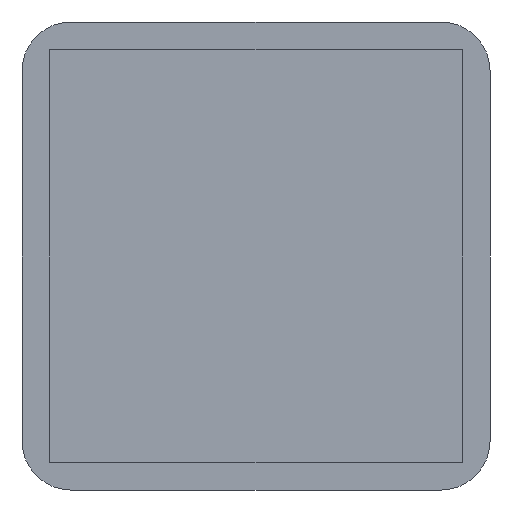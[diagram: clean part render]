
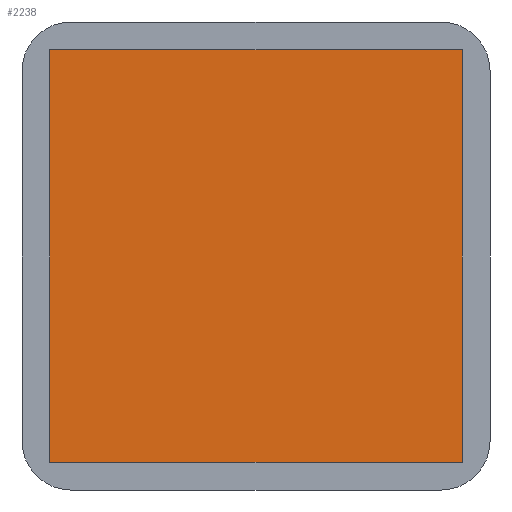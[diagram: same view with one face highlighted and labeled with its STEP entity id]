
A CAD part, front view. The second image highlights one B-rep face of the part: STEP entity #2238.
In plain terms, the highlighted planar face has unit normal (0, -1, 0).
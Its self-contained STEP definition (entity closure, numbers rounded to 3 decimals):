
#25 = CARTESIAN_POINT ( 'NONE',  ( 11.587, -13.936, -0.275 ) ) ;
#30 = EDGE_CURVE ( 'NONE', #123, #174, #732, .T. ) ;
#123 = VERTEX_POINT ( 'NONE', #1508 ) ;
#174 = VERTEX_POINT ( 'NONE', #1519 ) ;
#271 = DIRECTION ( 'NONE',  ( 0., 0., 1. ) ) ;
#309 = CARTESIAN_POINT ( 'NONE',  ( -3.413, -13.936, 14.725 ) ) ;
#378 = DIRECTION ( 'NONE',  ( 0., 1., 0. ) ) ;
#384 = ORIENTED_EDGE ( 'NONE', *, *, #30, .F. ) ;
#401 = LINE ( 'NONE', #1698, #1810 ) ;
#436 = CARTESIAN_POINT ( 'NONE',  ( 11.587, -13.936, -0.275 ) ) ;
#495 = PLANE ( 'NONE',  #1629 ) ;
#501 = EDGE_CURVE ( 'NONE', #174, #1405, #990, .T. ) ;
#538 = EDGE_LOOP ( 'NONE', ( #766, #1418, #1066, #384 ) ) ;
#557 = VECTOR ( 'NONE', #1734, 1000. ) ;
#591 = CARTESIAN_POINT ( 'NONE',  ( -3.413, -13.936, -0.275 ) ) ;
#617 = DIRECTION ( 'NONE',  ( 0., 0., 1. ) ) ;
#620 = VERTEX_POINT ( 'NONE', #1968 ) ;
#732 = LINE ( 'NONE', #309, #947 ) ;
#766 = ORIENTED_EDGE ( 'NONE', *, *, #1469, .F. ) ;
#859 = DIRECTION ( 'NONE',  ( 1., 0., 0. ) ) ;
#918 = CARTESIAN_POINT ( 'NONE',  ( -3.413, -13.936, 14.725 ) ) ;
#947 = VECTOR ( 'NONE', #859, 1000. ) ;
#990 = LINE ( 'NONE', #436, #557 ) ;
#1066 = ORIENTED_EDGE ( 'NONE', *, *, #501, .F. ) ;
#1097 = EDGE_CURVE ( 'NONE', #1405, #620, #401, .T. ) ;
#1353 = DIRECTION ( 'NONE',  ( -1., 0., 0. ) ) ;
#1405 = VERTEX_POINT ( 'NONE', #25 ) ;
#1418 = ORIENTED_EDGE ( 'NONE', *, *, #1097, .F. ) ;
#1442 = VECTOR ( 'NONE', #617, 1000. ) ;
#1469 = EDGE_CURVE ( 'NONE', #620, #123, #2244, .T. ) ;
#1508 = CARTESIAN_POINT ( 'NONE',  ( -3.413, -13.936, 14.725 ) ) ;
#1519 = CARTESIAN_POINT ( 'NONE',  ( 11.587, -13.936, 14.725 ) ) ;
#1629 = AXIS2_PLACEMENT_3D ( 'NONE', #918, #378, #271 ) ;
#1698 = CARTESIAN_POINT ( 'NONE',  ( -3.413, -13.936, -0.275 ) ) ;
#1734 = DIRECTION ( 'NONE',  ( 0., 0., -1. ) ) ;
#1810 = VECTOR ( 'NONE', #1353, 1000. ) ;
#1968 = CARTESIAN_POINT ( 'NONE',  ( -3.413, -13.936, -0.275 ) ) ;
#2238 = ADVANCED_FACE ( 'NONE', ( #2345 ), #495, .F. ) ;
#2244 = LINE ( 'NONE', #591, #1442 ) ;
#2345 = FACE_OUTER_BOUND ( 'NONE', #538, .T. ) ;
